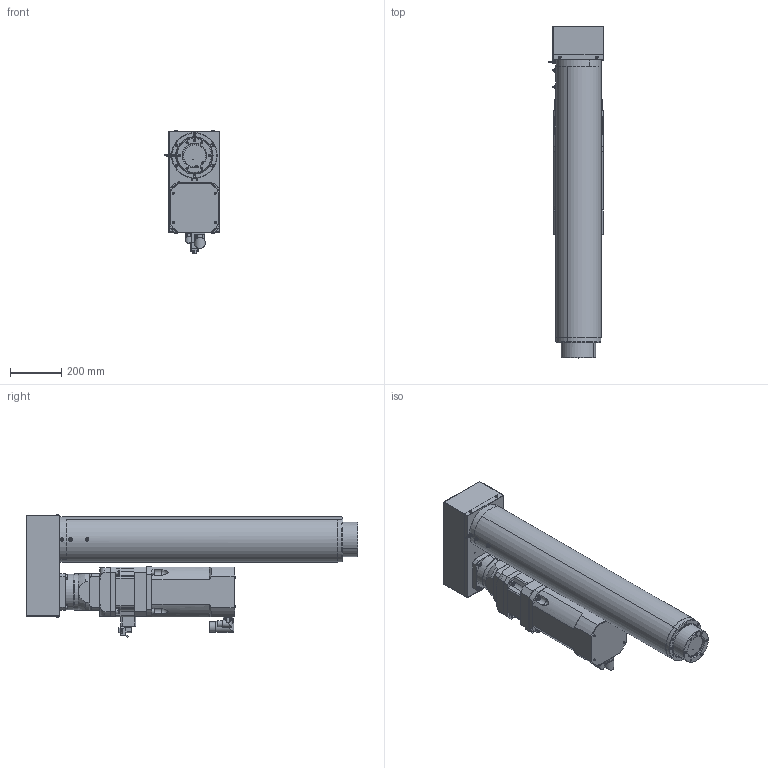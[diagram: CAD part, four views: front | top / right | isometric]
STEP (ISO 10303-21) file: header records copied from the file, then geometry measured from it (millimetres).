
FILE_DESCRIPTION (( 'STEP AP214' ), '1' );
FILE_NAME ('RLWPK100D-075-020S.STEP', '2023-04-06T06:04:08', ( '' ), ( '' ), 'SwSTEP 2.0', 'SolidWorks 2021', '' );
FILE_SCHEMA (( 'AUTOMOTIVE_DESIGN' ));
Length unit declared in the file: millimetre
Products named in the file (1): RLWPK100D-075-020S
Bounding box: 218.14 x 1297.5 x 481.14 mm (x, y, z)
Volume: 41501076.8 mm3; surface area: 3504021.6 mm2
Topology: 36 solids, 36 shells, 1551 faces, 3699 edges, 2234 vertices
Faces by surface type: plane 593, cylinder 592, cone 238, torus 96, bspline 30, sphere 2
Entity records: 63560 total; most frequent: CARTESIAN_POINT 9974, DIRECTION 8007, ORIENTED_EDGE 7086, EDGE_CURVE 3543, AXIS2_PLACEMENT_3D 3099, VERTEX_POINT 2234, EDGE_LOOP 1827, LINE 1809
